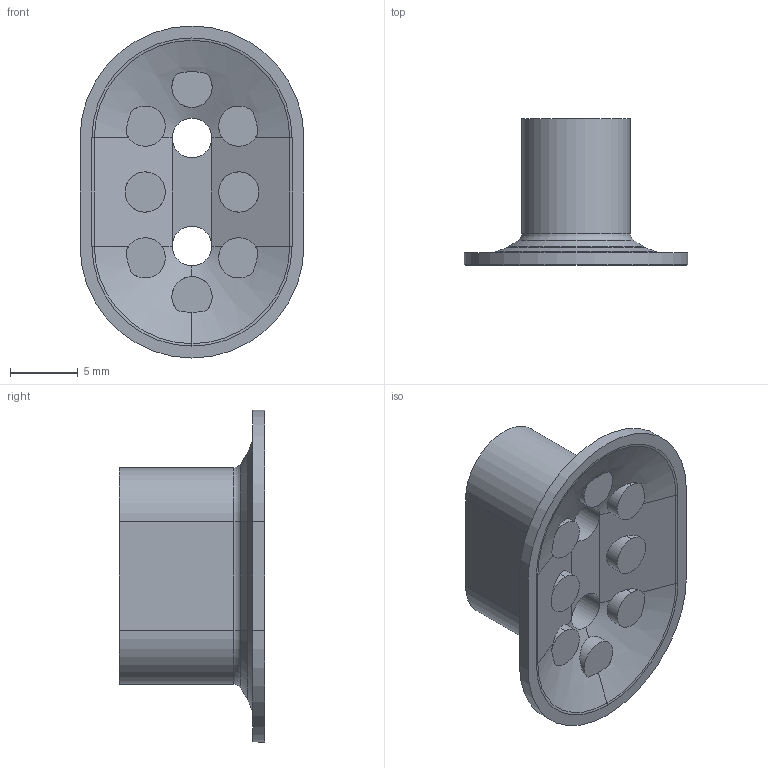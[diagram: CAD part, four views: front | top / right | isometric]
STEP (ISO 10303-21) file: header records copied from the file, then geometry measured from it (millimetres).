
FILE_DESCRIPTION (( 'STEP AP203' ), '1' );
FILE_NAME ('40C_25--A.STEP', '2019-02-05T09:24:12', ( '' ), ( '' ), 'SwSTEP 2.0', 'SolidWorks 2016', '' );
FILE_SCHEMA (( 'CONFIG_CONTROL_DESIGN' ));
Length unit declared in the file: millimetre
Products named in the file (1): 40C_25--A
Bounding box: 16.49 x 10.74 x 24.44 mm (x, y, z)
Volume: 1076.9 mm3; surface area: 1297.4 mm2
Topology: 1 solids, 1 shells, 84 faces, 199 edges, 120 vertices
Faces by surface type: cylinder 39, plane 24, torus 12, cone 9
Entity records: 2626 total; most frequent: CARTESIAN_POINT 610, DIRECTION 429, ORIENTED_EDGE 398, EDGE_CURVE 199, AXIS2_PLACEMENT_3D 175, VERTEX_POINT 120, EDGE_LOOP 91, CIRCLE 90
